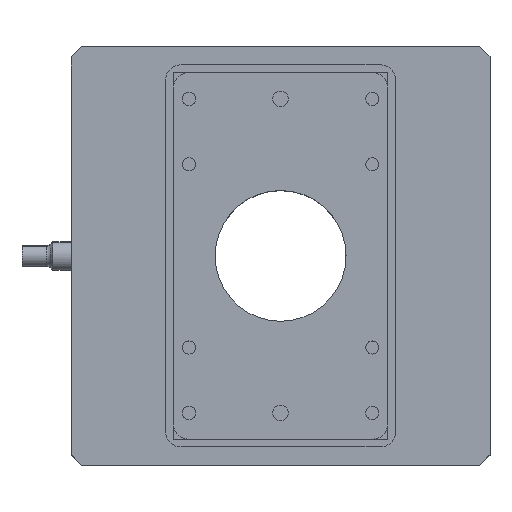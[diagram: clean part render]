
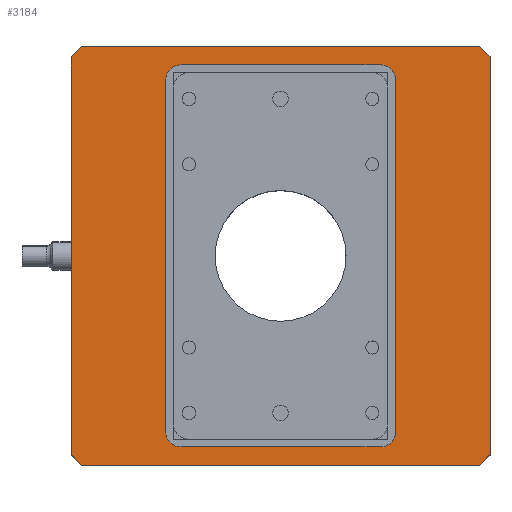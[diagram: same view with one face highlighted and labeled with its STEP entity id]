
A CAD part, top view. The second image highlights one B-rep face of the part: STEP entity #3184.
In plain terms, the highlighted planar face has unit normal (0, 0, 1).
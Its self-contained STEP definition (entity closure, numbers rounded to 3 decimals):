
#16 = EDGE_CURVE ( 'NONE', #381, #2020, #1081, .T. ) ;
#26 = VERTEX_POINT ( 'NONE', #3533 ) ;
#48 = ORIENTED_EDGE ( 'NONE', *, *, #508, .T. ) ;
#95 = AXIS2_PLACEMENT_3D ( 'NONE', #3189, #1494, #3472 ) ;
#120 = LINE ( 'NONE', #2648, #2512 ) ;
#139 = LINE ( 'NONE', #2991, #3063 ) ;
#154 = LINE ( 'NONE', #2662, #920 ) ;
#240 = ORIENTED_EDGE ( 'NONE', *, *, #2623, .F. ) ;
#253 = DIRECTION ( 'NONE',  ( 1., 0., 0. ) ) ;
#283 = CARTESIAN_POINT ( 'NONE',  ( 19., -36.5, 20. ) ) ;
#319 = CARTESIAN_POINT ( 'NONE',  ( 40., 40., 20. ) ) ;
#349 = VECTOR ( 'NONE', #2223, 1000. ) ;
#381 = VERTEX_POINT ( 'NONE', #283 ) ;
#460 = CARTESIAN_POINT ( 'NONE',  ( 19., 36.5, 20. ) ) ;
#462 = FACE_BOUND ( 'NONE', #2859, .T. ) ;
#465 = ORIENTED_EDGE ( 'NONE', *, *, #2578, .T. ) ;
#487 = CARTESIAN_POINT ( 'NONE',  ( -22., 33.5, 20. ) ) ;
#508 = EDGE_CURVE ( 'NONE', #991, #3161, #1903, .T. ) ;
#554 = CARTESIAN_POINT ( 'NONE',  ( 40., -38., 20. ) ) ;
#560 = AXIS2_PLACEMENT_3D ( 'NONE', #3256, #1271, #2965 ) ;
#569 = DIRECTION ( 'NONE',  ( 0., 0., 1. ) ) ;
#602 = ORIENTED_EDGE ( 'NONE', *, *, #1877, .T. ) ;
#648 = DIRECTION ( 'NONE',  ( -1., 0., 0. ) ) ;
#665 = CARTESIAN_POINT ( 'NONE',  ( -40., -38., 20. ) ) ;
#682 = EDGE_CURVE ( 'NONE', #901, #2832, #3537, .T. ) ;
#842 = CARTESIAN_POINT ( 'NONE',  ( 22., 33.5, 20. ) ) ;
#880 = EDGE_CURVE ( 'NONE', #3148, #3371, #2241, .T. ) ;
#901 = VERTEX_POINT ( 'NONE', #1485 ) ;
#911 = DIRECTION ( 'NONE',  ( 0., 0., 1. ) ) ;
#920 = VECTOR ( 'NONE', #1561, 1000. ) ;
#961 = CARTESIAN_POINT ( 'NONE',  ( -22., 33.5, 20. ) ) ;
#977 = EDGE_CURVE ( 'NONE', #3418, #3635, #1897, .T. ) ;
#991 = VERTEX_POINT ( 'NONE', #3543 ) ;
#1020 = DIRECTION ( 'NONE',  ( 0.707, -0.707, 0. ) ) ;
#1024 = EDGE_CURVE ( 'NONE', #2832, #1609, #2554, .T. ) ;
#1042 = DIRECTION ( 'NONE',  ( 0.707, 0.707, 0. ) ) ;
#1050 = AXIS2_PLACEMENT_3D ( 'NONE', #1502, #911, #648 ) ;
#1081 = CIRCLE ( 'NONE', #560, 3. ) ;
#1082 = ORIENTED_EDGE ( 'NONE', *, *, #2480, .F. ) ;
#1092 = ORIENTED_EDGE ( 'NONE', *, *, #16, .F. ) ;
#1137 = CARTESIAN_POINT ( 'NONE',  ( -39., 39., 20. ) ) ;
#1158 = VECTOR ( 'NONE', #1042, 1000. ) ;
#1189 = EDGE_CURVE ( 'NONE', #2238, #1369, #2757, .T. ) ;
#1261 = VECTOR ( 'NONE', #3111, 1000. ) ;
#1271 = DIRECTION ( 'NONE',  ( 0., 0., 1. ) ) ;
#1363 = CARTESIAN_POINT ( 'NONE',  ( -40., -40., 20. ) ) ;
#1369 = VERTEX_POINT ( 'NONE', #2842 ) ;
#1427 = EDGE_CURVE ( 'NONE', #3161, #3418, #2039, .T. ) ;
#1463 = DIRECTION ( 'NONE',  ( 0., 1., 0. ) ) ;
#1485 = CARTESIAN_POINT ( 'NONE',  ( -19., 36.5, 20. ) ) ;
#1494 = DIRECTION ( 'NONE',  ( 0., 0., 1. ) ) ;
#1502 = CARTESIAN_POINT ( 'NONE',  ( 19., 33.5, 20. ) ) ;
#1530 = VERTEX_POINT ( 'NONE', #665 ) ;
#1546 = ORIENTED_EDGE ( 'NONE', *, *, #2213, .T. ) ;
#1561 = DIRECTION ( 'NONE',  ( -1., 0., 0. ) ) ;
#1608 = CARTESIAN_POINT ( 'NONE',  ( 39., -39., 20. ) ) ;
#1609 = VERTEX_POINT ( 'NONE', #3258 ) ;
#1641 = ORIENTED_EDGE ( 'NONE', *, *, #977, .T. ) ;
#1669 = ORIENTED_EDGE ( 'NONE', *, *, #1427, .T. ) ;
#1671 = CARTESIAN_POINT ( 'NONE',  ( -40., 40., 20. ) ) ;
#1699 = CARTESIAN_POINT ( 'NONE',  ( 22., -33.5, 20. ) ) ;
#1711 = EDGE_CURVE ( 'NONE', #2652, #381, #2752, .T. ) ;
#1756 = ORIENTED_EDGE ( 'NONE', *, *, #1823, .F. ) ;
#1771 = EDGE_CURVE ( 'NONE', #1530, #26, #139, .T. ) ;
#1811 = DIRECTION ( 'NONE',  ( 0., -1., 0. ) ) ;
#1823 = EDGE_CURVE ( 'NONE', #2020, #3148, #3284, .T. ) ;
#1877 = EDGE_CURVE ( 'NONE', #26, #991, #2345, .T. ) ;
#1897 = LINE ( 'NONE', #2697, #3316 ) ;
#1903 = LINE ( 'NONE', #1608, #1158 ) ;
#1911 = ORIENTED_EDGE ( 'NONE', *, *, #1771, .T. ) ;
#1977 = ORIENTED_EDGE ( 'NONE', *, *, #880, .F. ) ;
#2020 = VERTEX_POINT ( 'NONE', #1699 ) ;
#2036 = AXIS2_PLACEMENT_3D ( 'NONE', #2255, #569, #2547 ) ;
#2039 = LINE ( 'NONE', #319, #2708 ) ;
#2069 = CIRCLE ( 'NONE', #95, 3. ) ;
#2126 = CARTESIAN_POINT ( 'NONE',  ( -19., -36.5, 20. ) ) ;
#2140 = DIRECTION ( 'NONE',  ( 1., 0., 0. ) ) ;
#2171 = DIRECTION ( 'NONE',  ( 0., 0., 1. ) ) ;
#2213 = EDGE_CURVE ( 'NONE', #3635, #2238, #2696, .T. ) ;
#2223 = DIRECTION ( 'NONE',  ( -1., 0., 0. ) ) ;
#2238 = VERTEX_POINT ( 'NONE', #2517 ) ;
#2241 = CIRCLE ( 'NONE', #1050, 3. ) ;
#2251 = VECTOR ( 'NONE', #3045, 1000. ) ;
#2255 = CARTESIAN_POINT ( 'NONE',  ( 0., 0., 20. ) ) ;
#2272 = CARTESIAN_POINT ( 'NONE',  ( 38., 40., 20. ) ) ;
#2345 = LINE ( 'NONE', #1363, #2251 ) ;
#2473 = ORIENTED_EDGE ( 'NONE', *, *, #1024, .F. ) ;
#2480 = EDGE_CURVE ( 'NONE', #1609, #2652, #2069, .T. ) ;
#2485 = EDGE_LOOP ( 'NONE', ( #1546, #2510, #465, #1911, #602, #48, #1669, #1641 ) ) ;
#2510 = ORIENTED_EDGE ( 'NONE', *, *, #1189, .T. ) ;
#2512 = VECTOR ( 'NONE', #1811, 1000. ) ;
#2516 = ORIENTED_EDGE ( 'NONE', *, *, #1711, .F. ) ;
#2517 = CARTESIAN_POINT ( 'NONE',  ( -38., 40., 20. ) ) ;
#2547 = DIRECTION ( 'NONE',  ( 1., 0., 0. ) ) ;
#2554 = LINE ( 'NONE', #487, #3215 ) ;
#2578 = EDGE_CURVE ( 'NONE', #1369, #1530, #120, .T. ) ;
#2623 = EDGE_CURVE ( 'NONE', #3371, #901, #154, .T. ) ;
#2626 = FACE_OUTER_BOUND ( 'NONE', #2485, .T. ) ;
#2648 = CARTESIAN_POINT ( 'NONE',  ( -40., 40., 20. ) ) ;
#2652 = VERTEX_POINT ( 'NONE', #2126 ) ;
#2662 = CARTESIAN_POINT ( 'NONE',  ( -19., 36.5, 20. ) ) ;
#2696 = LINE ( 'NONE', #1671, #349 ) ;
#2697 = CARTESIAN_POINT ( 'NONE',  ( 39., 39., 20. ) ) ;
#2704 = CARTESIAN_POINT ( 'NONE',  ( -19., -36.5, 20. ) ) ;
#2708 = VECTOR ( 'NONE', #1463, 1000. ) ;
#2739 = DIRECTION ( 'NONE',  ( 0., -1., 0. ) ) ;
#2752 = LINE ( 'NONE', #2704, #3333 ) ;
#2757 = LINE ( 'NONE', #1137, #1261 ) ;
#2832 = VERTEX_POINT ( 'NONE', #961 ) ;
#2842 = CARTESIAN_POINT ( 'NONE',  ( -40., 38., 20. ) ) ;
#2859 = EDGE_LOOP ( 'NONE', ( #2473, #3516, #240, #1977, #1756, #1092, #2516, #1082 ) ) ;
#2965 = DIRECTION ( 'NONE',  ( 1., 0., 0. ) ) ;
#2991 = CARTESIAN_POINT ( 'NONE',  ( -39., -39., 20. ) ) ;
#3028 = CARTESIAN_POINT ( 'NONE',  ( 22., 33.5, 20. ) ) ;
#3034 = CARTESIAN_POINT ( 'NONE',  ( 40., 38., 20. ) ) ;
#3045 = DIRECTION ( 'NONE',  ( 1., 0., 0. ) ) ;
#3063 = VECTOR ( 'NONE', #1020, 1000. ) ;
#3073 = AXIS2_PLACEMENT_3D ( 'NONE', #3640, #2171, #253 ) ;
#3111 = DIRECTION ( 'NONE',  ( -0.707, -0.707, 0. ) ) ;
#3148 = VERTEX_POINT ( 'NONE', #842 ) ;
#3161 = VERTEX_POINT ( 'NONE', #554 ) ;
#3184 = ADVANCED_FACE ( 'NONE', ( #2626, #462 ), #3388, .T. ) ;
#3189 = CARTESIAN_POINT ( 'NONE',  ( -19., -33.5, 20. ) ) ;
#3195 = VECTOR ( 'NONE', #3311, 1000. ) ;
#3215 = VECTOR ( 'NONE', #2739, 1000. ) ;
#3256 = CARTESIAN_POINT ( 'NONE',  ( 19., -33.5, 20. ) ) ;
#3258 = CARTESIAN_POINT ( 'NONE',  ( -22., -33.5, 20. ) ) ;
#3284 = LINE ( 'NONE', #3028, #3195 ) ;
#3311 = DIRECTION ( 'NONE',  ( 0., 1., 0. ) ) ;
#3316 = VECTOR ( 'NONE', #3556, 1000. ) ;
#3333 = VECTOR ( 'NONE', #2140, 1000. ) ;
#3371 = VERTEX_POINT ( 'NONE', #460 ) ;
#3388 = PLANE ( 'NONE',  #2036 ) ;
#3418 = VERTEX_POINT ( 'NONE', #3034 ) ;
#3472 = DIRECTION ( 'NONE',  ( 1., 0., 0. ) ) ;
#3516 = ORIENTED_EDGE ( 'NONE', *, *, #682, .F. ) ;
#3533 = CARTESIAN_POINT ( 'NONE',  ( -38., -40., 20. ) ) ;
#3537 = CIRCLE ( 'NONE', #3073, 3. ) ;
#3543 = CARTESIAN_POINT ( 'NONE',  ( 38., -40., 20. ) ) ;
#3556 = DIRECTION ( 'NONE',  ( -0.707, 0.707, 0. ) ) ;
#3635 = VERTEX_POINT ( 'NONE', #2272 ) ;
#3640 = CARTESIAN_POINT ( 'NONE',  ( -19., 33.5, 20. ) ) ;
